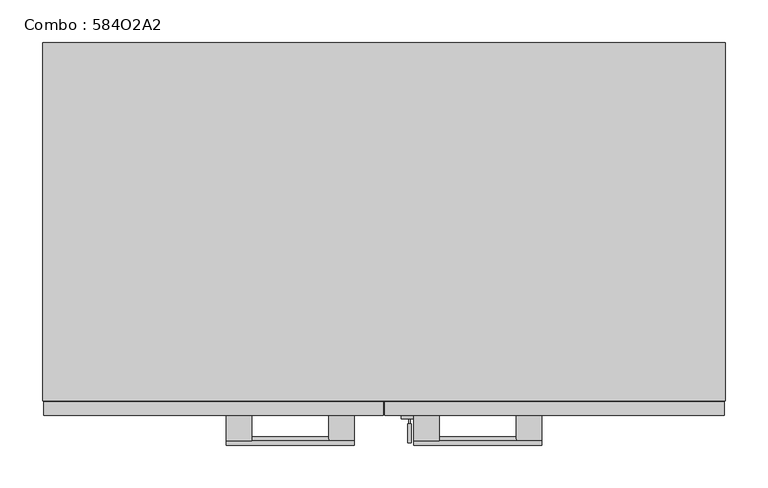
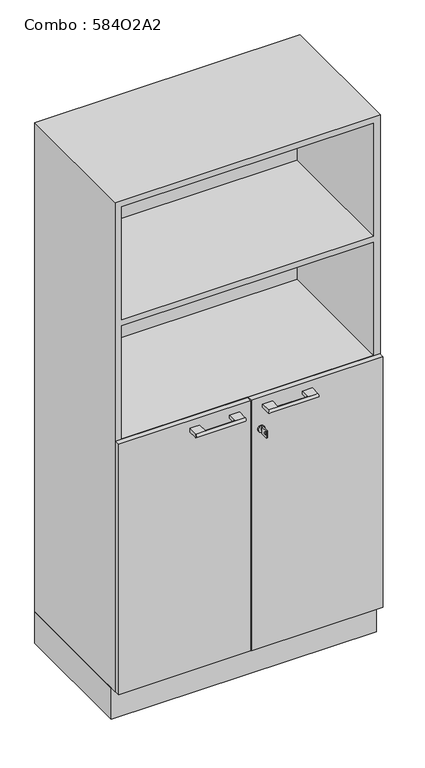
"""IFC4 building model written with IfcOpenShell, lengths in millimetres: furniture geometry, Combo : 584O2A2."""

from ifc_helpers import new_model, si_unit, point, frame, frame_2d, origin, origin_with_axes, place, context, project, spatial, polyline, circle_curve, trimmed, segment, composite_curve, outline, extrude, faceted_brep, source, transform, mapped, element, save
from ifc_brep_helpers import plane_surface, cylinder_surface, advanced_brep


def combo_584o2a2_30174030(model_context):
    return source(origin(), model_context, "Body", "SolidModel", [
        extrude(outline(polyline([(-400.0, -400.0), (-400.0, 0.0), (400.0, 0.0), (400.0, -400.0), (-400.0, -400.0)])), origin_with_axes(), (0.0, 0.0, 1.0), 100.0),
        extrude(outline(composite_curve([segment(trimmed(circle_curve(frame_2d((800.0, 30.0)), 10.0), [point((800.0, 20.0))], [point((800.0, 40.0))], False, "CARTESIAN"), True, "CONTINUOUS"), segment(trimmed(circle_curve(frame_2d((800.0, 30.0)), 10.0), [point((800.0, 40.0))], [point((800.0, 20.0))], False, "CARTESIAN"), True, "CONTINUOUS")], self_intersect=False)), frame((0.0, -441.0, 0.0), z_axis=(0.0, 1.0, 0.0), x_axis=(0.0, 0.0, 1.0)), (0.0, 0.0, 1.0), 4.0),
        extrude(outline(polyline([(-469.0, 789.014113), (-469.0, 811.0), (-447.0, 811.0), (-447.0, 789.014113), (-469.0, 789.014113)]), holes=[composite_curve([segment(trimmed(circle_curve(frame_2d((-462.75, 800.0070565)), 3.2230706), [point((-462.75, 803.2301271))], [point((-462.75, 796.7839859))], True, "CARTESIAN"), True, "CONTINUOUS"), segment(trimmed(circle_curve(frame_2d((-462.75, 800.0070565)), 3.2230706), [point((-462.75, 796.7839859))], [point((-462.75, 803.2301271))], True, "CARTESIAN"), True, "CONTINUOUS")], self_intersect=False)]), frame((28.0, 0.0, 0.0), z_axis=(1.0, 0.0, 0.0), x_axis=(0.0, 1.0, 0.0)), (0.0, 0.0, 1.0), 4.0416064),
        extrude(outline(polyline([(31.0416064, -447.0), (29.0, -447.0), (29.0, -441.0), (31.0416064, -441.0), (31.0416064, -447.0)])), frame((0.0, 0.0, 796.014113), z_axis=(0.0, 0.0, 1.0), x_axis=(1.0, 0.0, 0.0)), (0.0, 0.0, 1.0), 7.985887),
        advanced_brep(
        [(-185.0, -467.0, 875.0), (-185.0, -437.0, 875.0), (-185.0, -437.0, 865.0), (-185.0, -467.0, 865.0), (-155.0, -467.0, 865.0), (-155.0, -437.0, 865.0), (-155.0, -437.0, 875.0), (-155.0, -467.0, 875.0), (-35.0, -467.0, 875.0), (-35.0, -467.0, 865.0), (-35.0, -437.0, 865.0), (-35.0, -437.0, 875.0), (-65.0, -467.0, 875.0), (-65.0, -467.0, 865.0), (-65.0, -437.0, 875.0), (-65.0, -437.0, 865.0)],
        [
            (0, 1),
            (1, 2),
            (2, 3),
            (3, 0, circle_curve(frame((-185.0, -467.0, 870.0), z_axis=(-1.0, 0.0, 0.0), x_axis=(0.0, 0.0, -1.0)), 5.0)),
            (4, 5),
            (5, 6),
            (6, 7),
            (7, 4, circle_curve(frame((-155.0, -467.0, 870.0), z_axis=(-1.0, 0.0, 0.0), x_axis=(0.0, 0.0, -1.0)), 5.0)),
            (2, 5),
            (4, 3),
            (1, 6),
            (0, 7),
            (8, 9, circle_curve(frame((-35.0, -467.0, 870.0), z_axis=(1.0, 0.0, 0.0), x_axis=(0.0, 0.0, -1.0)), 5.0)),
            (9, 10),
            (10, 11),
            (11, 8),
            (8, 12),
            (12, 7),
            (4, 13),
            (13, 9),
            (12, 13, circle_curve(frame((-65.0, -467.0, 870.0), z_axis=(-1.0, 0.0, 0.0), x_axis=(0.0, 0.0, -1.0)), 5.0)),
            (12, 14),
            (14, 15),
            (15, 13),
            (15, 10),
            (14, 11),
        ],
        [
            plane_surface(frame((-185.0, -467.0, 876.0), z_axis=(-1.0, 0.0, 0.0), x_axis=(0.0, 0.0, 1.0))),
            plane_surface(frame((-155.0, -467.0, 876.0), z_axis=(1.0, 0.0, 0.0), x_axis=(0.0, 0.0, -1.0))),
            plane_surface(frame((-185.0, -437.0, 865.0), z_axis=(0.0, 0.0, -1.0), x_axis=(1.0, 0.0, 0.0))),
            plane_surface(frame((-185.0, -437.0, 875.0), z_axis=(0.0, 1.0, 0.0), x_axis=(1.0, 0.0, 0.0))),
            plane_surface(frame((-185.0, -467.0, 875.0), z_axis=(0.0, 0.0, 1.0), x_axis=(1.0, 0.0, 0.0))),
            plane_surface(frame((-35.0, -467.0, 865.0), z_axis=(1.0, 0.0, 0.0), x_axis=(0.0, 1.0, 0.0))),
            cylinder_surface(frame((-185.0, -467.0, 870.0), z_axis=(1.0, 0.0, 0.0), x_axis=(0.0, 0.0, -1.0)), 5.0),
            plane_surface(frame((-65.0, -555.7415577, 865.0), z_axis=(-1.0, 0.0, 0.0), x_axis=(0.0, -1.0, 0.0))),
            plane_surface(frame((-35.0, -467.0, 865.0), z_axis=(0.0, 0.0, -1.0), x_axis=(-1.0, 0.0, 0.0))),
            plane_surface(frame((-35.0, -437.0, 865.0), z_axis=(0.0, 1.0, 0.0), x_axis=(-1.0, 0.0, 0.0))),
            plane_surface(frame((-35.0, -437.0, 875.0), z_axis=(0.0, 0.0, 1.0), x_axis=(-1.0, 0.0, 0.0))),
        ],
        [
            (0, [[1, 2, 3, 4]]),
            (1, [[5, 6, 7, 8]]),
            (2, [[-3, 9, -5, 10]]),
            (3, [[-2, 11, -6, -9]]),
            (4, [[-1, 12, -7, -11]]),
            (5, [[13, 14, 15, 16]]),
            (6, [[-13, 17, 18, -12, -4, -10, 19, 20]]),
            (6, [[-8, -18, 21, -19]]),
            (7, [[22, 23, 24, -21]]),
            (8, [[-14, -20, -24, 25]]),
            (9, [[-15, -25, -23, 26]]),
            (10, [[-16, -26, -22, -17]]),
        ],
    ),
        advanced_brep(
        [(35.0, -467.0, 875.0), (35.0, -437.0, 875.0), (35.0, -437.0, 865.0), (35.0, -467.0, 865.0), (65.0, -467.0, 865.0), (65.0, -437.0, 865.0), (65.0, -437.0, 875.0), (65.0, -467.0, 875.0), (185.0, -467.0, 875.0), (185.0, -467.0, 865.0), (185.0, -437.0, 865.0), (185.0, -437.0, 875.0), (155.0, -467.0, 875.0), (155.0, -467.0, 865.0), (155.0, -437.0, 875.0), (155.0, -437.0, 865.0)],
        [
            (0, 1),
            (1, 2),
            (2, 3),
            (3, 0, circle_curve(frame((35.0, -467.0, 870.0), z_axis=(-1.0, 0.0, 0.0), x_axis=(0.0, 0.0, -1.0)), 5.0)),
            (4, 5),
            (5, 6),
            (6, 7),
            (7, 4, circle_curve(frame((65.0, -467.0, 870.0), z_axis=(-1.0, 0.0, 0.0), x_axis=(0.0, 0.0, -1.0)), 5.0)),
            (2, 5),
            (4, 3),
            (1, 6),
            (0, 7),
            (8, 9, circle_curve(frame((185.0, -467.0, 870.0), z_axis=(1.0, 0.0, 0.0), x_axis=(0.0, 0.0, -1.0)), 5.0)),
            (9, 10),
            (10, 11),
            (11, 8),
            (8, 12),
            (12, 7),
            (4, 13),
            (13, 9),
            (12, 13, circle_curve(frame((155.0, -467.0, 870.0), z_axis=(-1.0, 0.0, 0.0), x_axis=(0.0, 0.0, -1.0)), 5.0)),
            (12, 14),
            (14, 15),
            (15, 13),
            (15, 10),
            (14, 11),
        ],
        [
            plane_surface(frame((35.0, -467.0, 876.0), z_axis=(-1.0, 0.0, 0.0), x_axis=(0.0, 0.0, 1.0))),
            plane_surface(frame((65.0, -467.0, 876.0), z_axis=(1.0, 0.0, 0.0), x_axis=(0.0, 0.0, -1.0))),
            plane_surface(frame((35.0, -437.0, 865.0), z_axis=(0.0, 0.0, -1.0), x_axis=(1.0, 0.0, 0.0))),
            plane_surface(frame((35.0, -437.0, 875.0), z_axis=(0.0, 1.0, 0.0), x_axis=(1.0, 0.0, 0.0))),
            plane_surface(frame((35.0, -467.0, 875.0), z_axis=(0.0, 0.0, 1.0), x_axis=(1.0, 0.0, 0.0))),
            plane_surface(frame((185.0, -467.0, 865.0), z_axis=(1.0, 0.0, 0.0), x_axis=(0.0, 1.0, 0.0))),
            cylinder_surface(frame((35.0, -467.0, 870.0), z_axis=(1.0, 0.0, 0.0), x_axis=(0.0, 0.0, -1.0)), 5.0),
            plane_surface(frame((155.0, -555.7415577, 865.0), z_axis=(-1.0, 0.0, 0.0), x_axis=(0.0, -1.0, 0.0))),
            plane_surface(frame((185.0, -467.0, 865.0), z_axis=(0.0, 0.0, -1.0), x_axis=(-1.0, 0.0, 0.0))),
            plane_surface(frame((185.0, -437.0, 865.0), z_axis=(0.0, 1.0, 0.0), x_axis=(-1.0, 0.0, 0.0))),
            plane_surface(frame((185.0, -437.0, 875.0), z_axis=(0.0, 0.0, 1.0), x_axis=(-1.0, 0.0, 0.0))),
        ],
        [
            (0, [[1, 2, 3, 4]]),
            (1, [[5, 6, 7, 8]]),
            (2, [[-3, 9, -5, 10]]),
            (3, [[-2, 11, -6, -9]]),
            (4, [[-1, 12, -7, -11]]),
            (5, [[13, 14, 15, 16]]),
            (6, [[-13, 17, 18, -12, -4, -10, 19, 20]]),
            (6, [[-8, -18, 21, -19]]),
            (7, [[22, 23, 24, -21]]),
            (8, [[-14, -20, -24, 25]]),
            (9, [[-15, -25, -23, 26]]),
            (10, [[-16, -26, -22, -17]]),
        ],
    ),
        extrude(outline(polyline([(-1.0, -437.0), (-399.0, -437.0), (-399.0, -421.0), (-1.0, -421.0), (-1.0, -437.0)])), frame((0.0, 0.0, 101.0), z_axis=(0.0, 0.0, 1.0), x_axis=(1.0, 0.0, 0.0)), (0.0, 0.0, 1.0), 798.0),
        extrude(outline(polyline([(399.0, -437.0), (1.0, -437.0), (1.0, -421.0), (399.0, -421.0), (399.0, -437.0)])), frame((0.0, 0.0, 101.0), z_axis=(0.0, 0.0, 1.0), x_axis=(1.0, 0.0, 0.0)), (0.0, 0.0, 1.0), 798.0),
        faceted_brep([(400.0, 0.0, 1660.0), (-400.0, 0.0, 1660.0), (-400.0, -420.0, 1660.0), (400.0, -420.0, 1660.0), (-400.0, 0.0, 100.0), (400.0, 0.0, 100.0), (400.0, -420.0, 100.0), (-400.0, -420.0, 100.0), (380.0, -420.0, 1260.0), (380.0, -420.0, 900.0), (-380.0, -420.0, 900.0), (-380.0, -420.0, 1260.0), (380.0, -420.0, 1640.0), (380.0, -420.0, 1280.0), (-380.0, -420.0, 1280.0), (-380.0, -420.0, 1640.0), (380.0, -20.0, 900.0), (380.0, -20.0, 1260.0), (-380.0, -20.0, 1260.0), (-380.0, -20.0, 900.0), (380.0, -20.0, 1280.0), (380.0, -20.0, 1640.0), (-380.0, -20.0, 1640.0), (-380.0, -20.0, 1280.0)], [[[0, 1, 2, 3]], [[4, 5, 6, 7]], [[1, 0, 5, 4]], [[2, 1, 4, 7]], [[3, 2, 7, 6], [8, 9, 10, 11], [12, 13, 14, 15]], [[0, 3, 6, 5]], [[16, 17, 18, 19]], [[17, 16, 9, 8]], [[18, 17, 8, 11]], [[19, 18, 11, 10]], [[16, 19, 10, 9]], [[20, 21, 22, 23]], [[21, 20, 13, 12]], [[22, 21, 12, 15]], [[23, 22, 15, 14]], [[20, 23, 14, 13]]]),
    ])


if __name__ == "__main__":
    model = new_model("IFC4")
    model_context = context("Model", 3, world=origin())
    ifc_project = project(units=[si_unit("LENGTHUNIT", "METRE", prefix="MILLI")], contexts=[model_context])
    site = spatial("IfcSite", under=ifc_project)
    building = spatial("IfcBuilding", under=site)
    placement = place(None, origin())
    combo_584o2a2_shape = combo_584o2a2_30174030(model_context)
    element("IfcFurniture", 1, ObjectType="Combo : 584O2A2", at=placement, inside=building, context=model_context, shape_type="MappedRepresentation", body=[
        mapped(combo_584o2a2_shape, transform((0.0, 0.0, 0.0), x_axis=(1.0, 0.0, 0.0), y_axis=(0.0, 1.0, 0.0), z_axis=(0.0, 0.0, 1.0))),
    ])
    save(model, "model.ifc")
